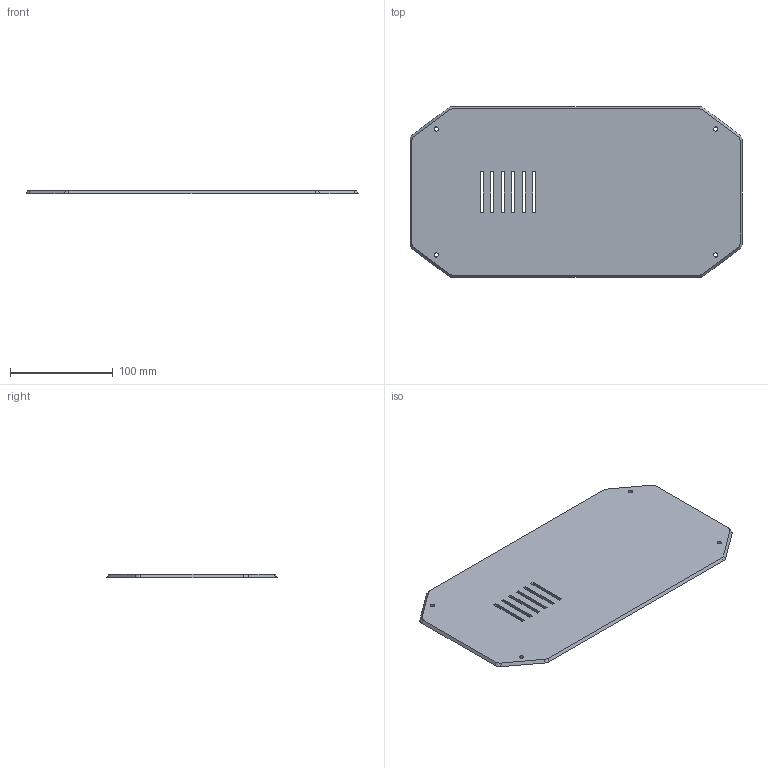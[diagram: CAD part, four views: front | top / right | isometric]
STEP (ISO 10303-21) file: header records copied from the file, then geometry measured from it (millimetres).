
FILE_DESCRIPTION(('Open CASCADE Model'),'2;1');
FILE_NAME('Q4-102','2026-10-08T13:25:54',('Author'),('Open CASCADE'), 'Open CASCADE STEP processor 8.0','build123d','Unknown');
FILE_SCHEMA(('AUTOMOTIVE_DESIGN { 1 0 10303 214 1 1 1 1 }'));
Length unit declared in the file: millimetre
Products named in the file (1): Q4-102
Bounding box: 323 x 165.6 x 3 mm (x, y, z)
Volume: 148933 mm3; surface area: 104123.6 mm2
Topology: 1 solids, 1 shells, 46 faces, 132 edges, 88 vertices
Faces by surface type: plane 26, bspline 16, cylinder 4
Full cylindrical faces by diameter (mm): 4.2 x4
Entity records: 3250 total; most frequent: CARTESIAN_POINT 843, DIRECTION 346, ORIENTED_EDGE 264, PCURVE 264, DEFINITIONAL_REPRESENTATION 264, LINE 220, VECTOR 220, EDGE_CURVE 132
